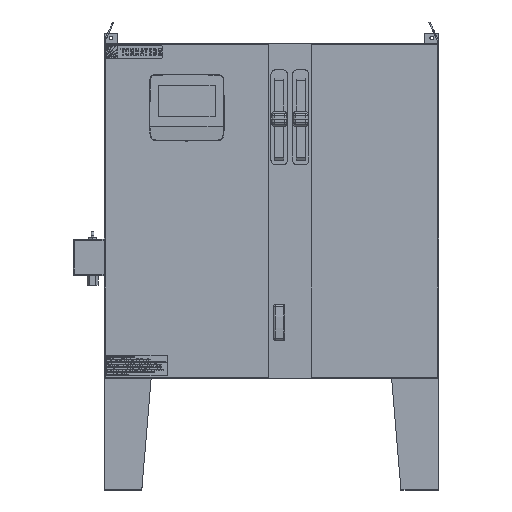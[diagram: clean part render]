
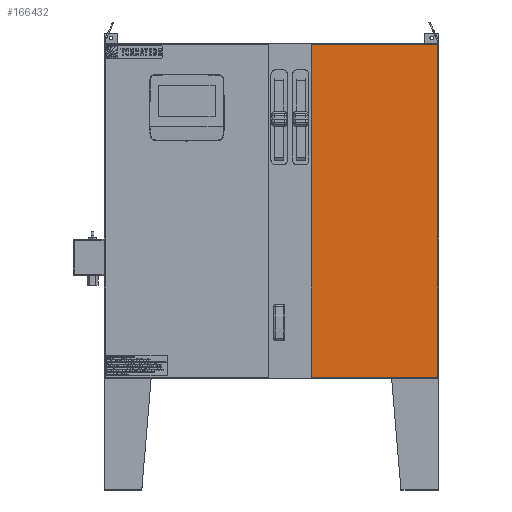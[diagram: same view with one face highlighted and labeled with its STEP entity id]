
A CAD part, top view. The second image highlights one B-rep face of the part: STEP entity #166432.
In plain terms, the highlighted planar face has unit normal (0, 0, 1).
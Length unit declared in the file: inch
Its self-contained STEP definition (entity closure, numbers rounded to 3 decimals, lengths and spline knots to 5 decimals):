
#9227 = CARTESIAN_POINT ( 'NONE',  ( 17.875, 35.875, 13.2 ) ) ;
#18175 = CARTESIAN_POINT ( 'NONE',  ( 17.875, 35.875, 13.2 ) ) ;
#20248 = VECTOR ( 'NONE', #224647, 39.37008 ) ;
#20569 = CARTESIAN_POINT ( 'NONE',  ( 4.3125, 0.125, 13.2 ) ) ;
#28645 = CARTESIAN_POINT ( 'NONE',  ( 17.875, 0.125, 13.2 ) ) ;
#30310 = ORIENTED_EDGE ( 'NONE', *, *, #46667, .T. ) ;
#33598 = VECTOR ( 'NONE', #226682, 39.37008 ) ;
#35920 = EDGE_CURVE ( 'NONE', #151768, #219746, #256604, .T. ) ;
#37021 = CARTESIAN_POINT ( 'NONE',  ( 17.875, 35.875, 13.2 ) ) ;
#46667 = EDGE_CURVE ( 'NONE', #81981, #195031, #205860, .T. ) ;
#46989 = EDGE_CURVE ( 'NONE', #195031, #151768, #139882, .T. ) ;
#66232 = CARTESIAN_POINT ( 'NONE',  ( 4.3125, 35.875, 13.2 ) ) ;
#67115 = FACE_OUTER_BOUND ( 'NONE', #237814, .T. ) ;
#81981 = VERTEX_POINT ( 'NONE', #28645 ) ;
#89220 = AXIS2_PLACEMENT_3D ( 'NONE', #233852, #150473, #235221 ) ;
#101981 = VECTOR ( 'NONE', #154214, 39.37008 ) ;
#102452 = CARTESIAN_POINT ( 'NONE',  ( 4.3125, 35.875, 13.2 ) ) ;
#112516 = CARTESIAN_POINT ( 'NONE',  ( 17.875, 0.125, 13.2 ) ) ;
#124795 = ORIENTED_EDGE ( 'NONE', *, *, #35920, .T. ) ;
#139882 = LINE ( 'NONE', #37021, #20248 ) ;
#143491 = ORIENTED_EDGE ( 'NONE', *, *, #46989, .T. ) ;
#147441 = VECTOR ( 'NONE', #150964, 39.37008 ) ;
#150473 = DIRECTION ( 'NONE',  ( 0., 0., -1. ) ) ;
#150964 = DIRECTION ( 'NONE',  ( 0., -1., 0. ) ) ;
#151768 = VERTEX_POINT ( 'NONE', #102452 ) ;
#154214 = DIRECTION ( 'NONE',  ( 1., 0., 0. ) ) ;
#166432 = ADVANCED_FACE ( 'NONE', ( #67115 ), #254742, .F. ) ;
#195031 = VERTEX_POINT ( 'NONE', #9227 ) ;
#205860 = LINE ( 'NONE', #18175, #33598 ) ;
#219503 = EDGE_CURVE ( 'NONE', #219746, #81981, #219505, .T. ) ;
#219505 = LINE ( 'NONE', #112516, #101981 ) ;
#219746 = VERTEX_POINT ( 'NONE', #20569 ) ;
#224647 = DIRECTION ( 'NONE',  ( -1., 0., 0. ) ) ;
#226682 = DIRECTION ( 'NONE',  ( 0., 1., 0. ) ) ;
#233852 = CARTESIAN_POINT ( 'NONE',  ( 0., 0., 13.2 ) ) ;
#235221 = DIRECTION ( 'NONE',  ( -1., 0., 0. ) ) ;
#237814 = EDGE_LOOP ( 'NONE', ( #30310, #143491, #124795, #255205 ) ) ;
#254742 = PLANE ( 'NONE',  #89220 ) ;
#255205 = ORIENTED_EDGE ( 'NONE', *, *, #219503, .T. ) ;
#256604 = LINE ( 'NONE', #66232, #147441 ) ;
